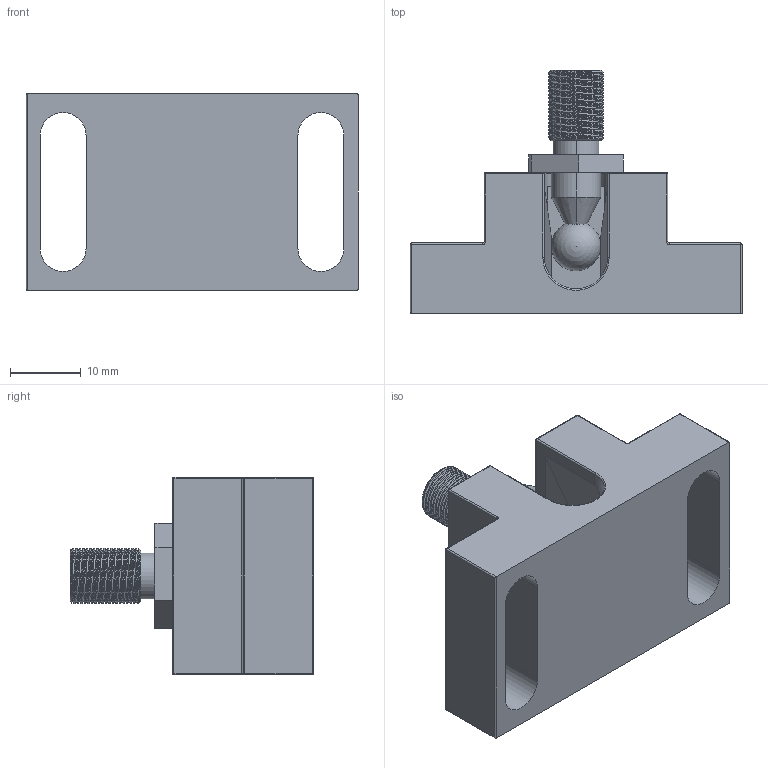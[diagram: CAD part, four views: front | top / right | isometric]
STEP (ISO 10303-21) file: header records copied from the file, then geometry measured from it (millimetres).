
FILE_DESCRIPTION (( 'STEP AP203' ), '1' );
FILE_NAME ('ball catch.STEP', '2012-05-29T20:39:06', ( '' ), ( '' ), 'SwSTEP 2.0', 'SolidWorks 2010', '' );
FILE_SCHEMA (( 'CONFIG_CONTROL_DESIGN' ));
Length unit declared in the file: millimetre
Products named in the file (3): ball catch; bal catch1
Assembly tree (2 placements, depth 2):
  ball catch
    ball catch
    bal catch1
Bounding box: 47 x 34.5 x 28 mm (x, y, z)
Volume: 16676.7 mm3; surface area: 7308.5 mm2
Topology: 2 solids, 2 shells, 151 faces, 391 edges, 235 vertices
Faces by surface type: cylinder 82, plane 36, torus 12, sphere 12, cone 7, bspline 2
Entity records: 8345 total; most frequent: CARTESIAN_POINT 4643, ORIENTED_EDGE 752, DIRECTION 700, EDGE_CURVE 376, AXIS2_PLACEMENT_3D 263, VERTEX_POINT 232, LINE 174, VECTOR 174
